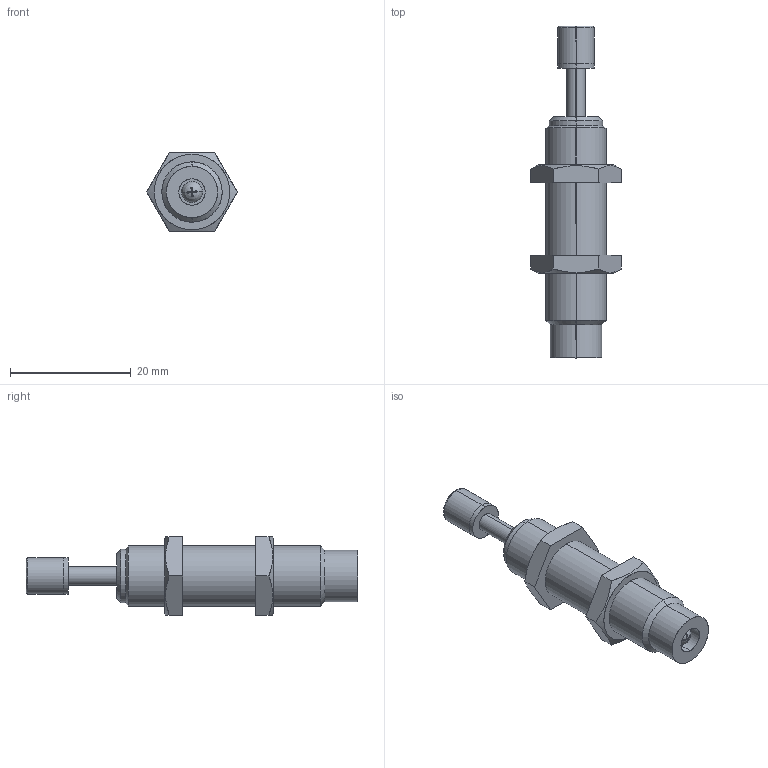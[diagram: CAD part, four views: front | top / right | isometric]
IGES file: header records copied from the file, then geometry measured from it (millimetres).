
Start section: SolidWorks IGES file using analytic representation for surfaces
Bounding box: 15.01 x 55 x 13 mm (x, y, z)
Surface area: 2402 mm2 (no closed solid volume)
Topology: 0 solids, 0 shells, 68 faces, 934 edges, 934 vertices
Faces by surface type: bspline 36, revolution 32
